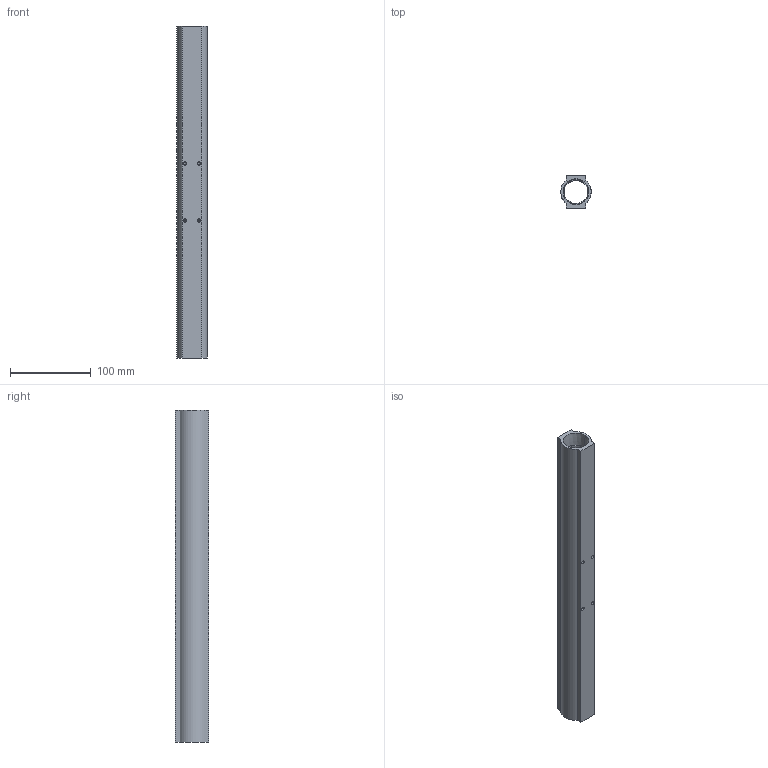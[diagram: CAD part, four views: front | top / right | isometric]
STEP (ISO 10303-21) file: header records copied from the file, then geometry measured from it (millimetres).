
FILE_DESCRIPTION (( 'STEP AP214' ), '1' );
FILE_NAME ('BWM8816B.STEP', '2022-03-15T04:37:34', ( '' ), ( '' ), 'SwSTEP 2.0', 'SolidWorks 2020', '' );
FILE_SCHEMA (( 'AUTOMOTIVE_DESIGN' ));
Length unit declared in the file: millimetre
Products named in the file (1): BWM8816B
Bounding box: 37.44 x 41 x 410 mm (x, y, z)
Volume: 223222.3 mm3; surface area: 94500 mm2
Topology: 1 solids, 1 shells, 226 faces, 601 edges, 394 vertices
Faces by surface type: plane 89, bspline 65, cylinder 44, cone 28
Entity records: 13094 total; most frequent: CARTESIAN_POINT 6033, ORIENTED_EDGE 1186, DIRECTION 741, EDGE_CURVE 593, VERTEX_POINT 394, LINE 285, VECTOR 285, EDGE_LOOP 269
